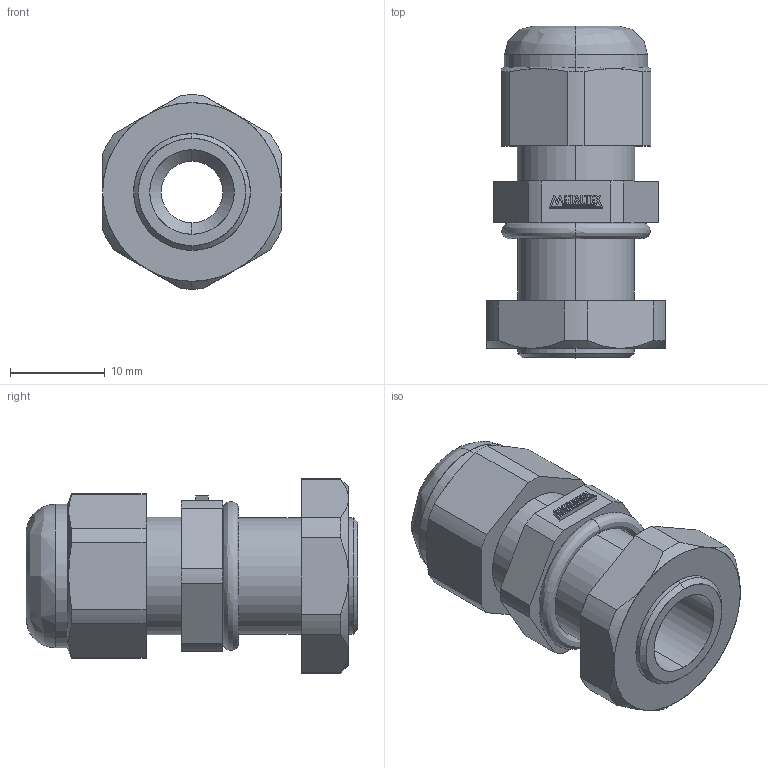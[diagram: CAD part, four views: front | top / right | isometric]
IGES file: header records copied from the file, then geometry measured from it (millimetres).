
Start section: SolidWorks IGES file using analytic representation for surfaces
Global section: file name: D:\X - Arquivos\PROEX\Empresas\P11 - METALTEX\01 - Produtos\IGES\Terceira remessa\Etapa 2\CH-PG7L.IGS; native system: SolidWorks 2012; preprocessor: SolidWorks 2012; author: Usuario; date: 180207.124109; units: millimetre
Bounding box: 18.85 x 35 x 20.5 mm (x, y, z)
Surface area: 3530.5 mm2 (no closed solid volume)
Topology: 0 solids, 0 shells, 174 faces, 1270 edges, 1270 vertices
Faces by surface type: bspline 125, revolution 49
